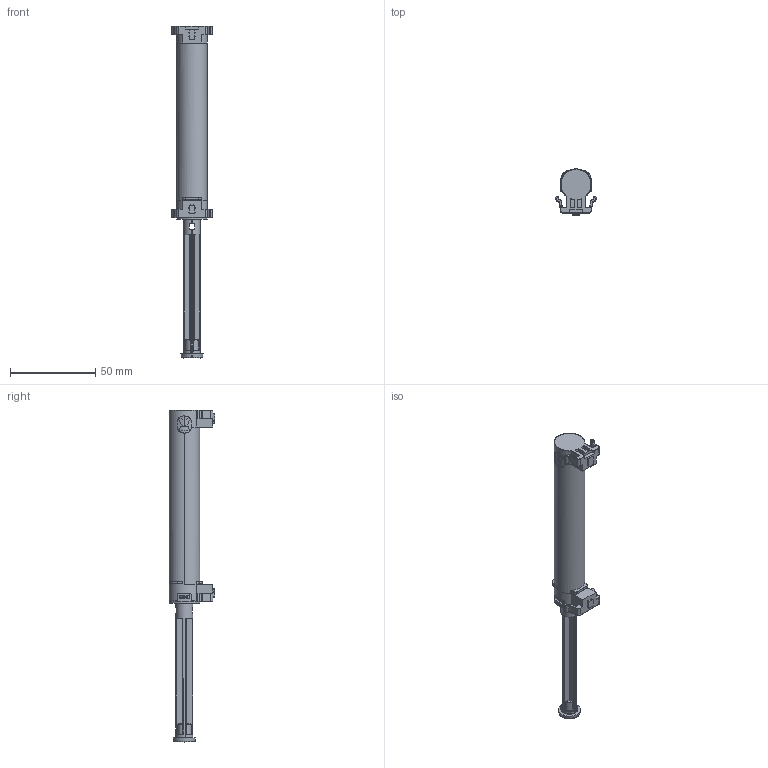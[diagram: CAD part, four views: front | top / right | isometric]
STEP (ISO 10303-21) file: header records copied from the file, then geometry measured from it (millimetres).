
FILE_DESCRIPTION(('CAx-IF Rec.Pracs.---Model Styling and Organization---1.2---2011-12-15','CAx-IF Rec.Pracs.---Geometric and Assembly Validation Properties---4.1---2014-06-16','CAx-IF Rec.Pracs.---PMI Polyline Presentation---2.0---2013-05-24'),'2;1');
FILE_NAME('KB_3d_004237_00.stp','2024-01-22T13:57:59+01:00',(''),(''),'STEP Interface 4.4 SP1 by CT CoreTechnologie','3D_Evolution4.4 SP1 by CT CoreTechnologie','');
FILE_SCHEMA(('AP203_CONFIGURATION_CONTROLLED_3D_DESIGN_OF_MECHANICAL_PARTS_AND_ASSEMBLIES_MIM_LF'));
Length unit declared in the file: millimetre
Products named in the file (4): KB_3d_004237_00; *Paper_Space0; xModel_Space; 3D-004237-00
Assembly tree (3 placements, depth 3):
  KB_3d_004237_00
    *Paper_Space0
    xModel_Space
      3D-004237-00
Bounding box: 23.89 x 26.9 x 194.9 mm (x, y, z)
Surface area: 18273.8 mm2 (no closed solid volume)
Topology: 0 solids, 411 shells, 413 faces, 1852 edges, 1850 vertices
Faces by surface type: plane 167, cylinder 166, bspline 80
Entity records: 28622 total; most frequent: CARTESIAN_POINT 10100, DIRECTION 3166, ORIENTED_EDGE 1854, EDGE_CURVE 1852, VERTEX_POINT 1850, AXIS2_PLACEMENT_3D 1105, VECTOR 956, LINE 956
